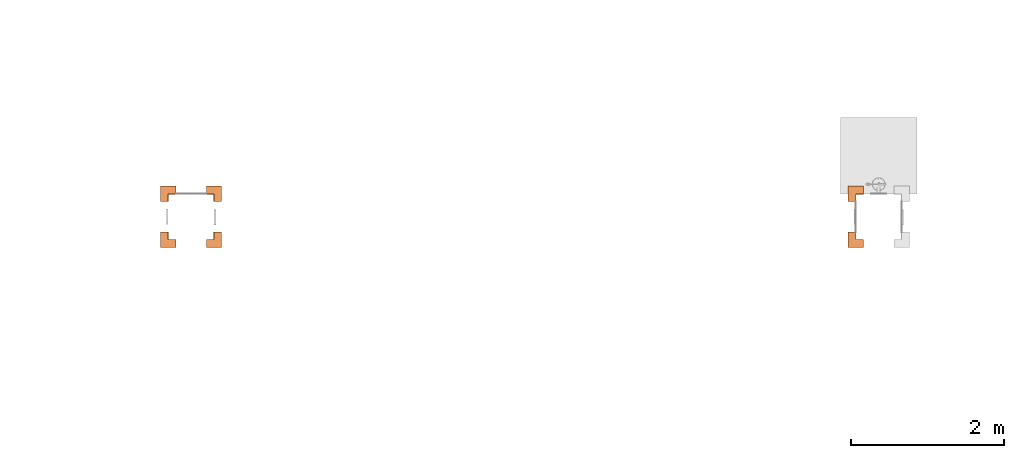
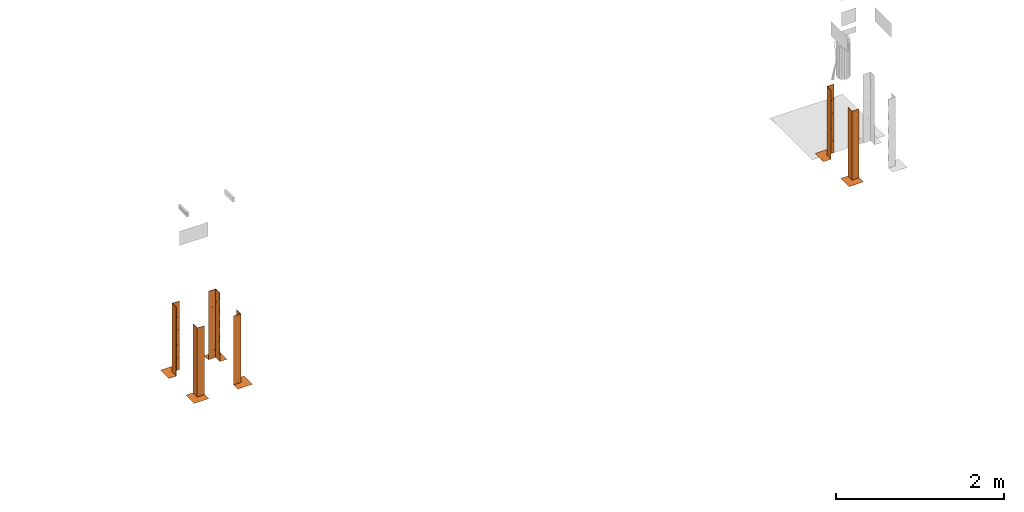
# One storey, part 18 of 119: 6 proxies.
"""IFC2X3 building model written with IfcOpenShell, lengths in metres."""

from ifc_helpers import new_model, entity, si_unit, converted_unit, derived_unit, direction, frame, origin, place, context, subcontext, project, spatial, faceted_brep, source, transform, mapped, material, material_list, type_object, type_shapes, element, save


model = new_model("IFC2X3")

# Units and contexts
model_context = context("Model", 3, precision=1e-05, world=origin(), true_north=direction((6.12303176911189e-17, 1.0)))
body_context = subcontext(model_context, "Body", "Model", "MODEL_VIEW")
ifc_project = project(units=[si_unit("LENGTHUNIT", "METRE"), si_unit("AREAUNIT", "SQUARE_METRE"), si_unit("VOLUMEUNIT", "CUBIC_METRE"), converted_unit("PLANEANGLEUNIT", "DEGREE", entity("IfcRatioMeasure", 0.0174532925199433), si_unit("PLANEANGLEUNIT", "RADIAN"), dimensions=[0, 0, 0, 0, 0, 0, 0]), si_unit("MASSUNIT", "GRAM", prefix="KILO"), derived_unit("MASSDENSITYUNIT", [(si_unit("MASSUNIT", "GRAM", prefix="KILO"), 1), (si_unit("LENGTHUNIT", "METRE"), -3)]), derived_unit("MOMENTOFINERTIAUNIT", [(si_unit("LENGTHUNIT", "METRE"), 4)]), si_unit("TIMEUNIT", "SECOND"), si_unit("FREQUENCYUNIT", "HERTZ"), si_unit("THERMODYNAMICTEMPERATUREUNIT", "DEGREE_CELSIUS"), derived_unit("THERMALTRANSMITTANCEUNIT", [(si_unit("MASSUNIT", "GRAM", prefix="KILO"), 1), (si_unit("THERMODYNAMICTEMPERATUREUNIT", "KELVIN"), -1), (si_unit("TIMEUNIT", "SECOND"), -3)]), derived_unit("VOLUMETRICFLOWRATEUNIT", [(si_unit("LENGTHUNIT", "METRE"), 3), (si_unit("TIMEUNIT", "SECOND"), -1)]), si_unit("ELECTRICCURRENTUNIT", "AMPERE"), si_unit("ELECTRICVOLTAGEUNIT", "VOLT"), si_unit("POWERUNIT", "WATT"), si_unit("FORCEUNIT", "NEWTON", prefix="KILO"), si_unit("ILLUMINANCEUNIT", "LUX"), si_unit("LUMINOUSFLUXUNIT", "LUMEN"), si_unit("LUMINOUSINTENSITYUNIT", "CANDELA"), derived_unit("USERDEFINED", [(si_unit("MASSUNIT", "GRAM", prefix="KILO"), -1), (si_unit("LENGTHUNIT", "METRE"), -2), (si_unit("TIMEUNIT", "SECOND"), 3), (si_unit("LUMINOUSFLUXUNIT", "LUMEN"), 1)]), derived_unit("LINEARVELOCITYUNIT", [(si_unit("LENGTHUNIT", "METRE"), 1), (si_unit("TIMEUNIT", "SECOND"), -1)]), si_unit("PRESSUREUNIT", "PASCAL"), derived_unit("USERDEFINED", [(si_unit("LENGTHUNIT", "METRE"), -2), (si_unit("MASSUNIT", "GRAM", prefix="KILO"), 1), (si_unit("TIMEUNIT", "SECOND"), -2)]), derived_unit("LINEARFORCEUNIT", [(si_unit("MASSUNIT", "GRAM", prefix="KILO"), 1), (si_unit("LENGTHUNIT", "METRE"), 1), (si_unit("TIMEUNIT", "SECOND"), -2), (si_unit("LENGTHUNIT", "METRE"), -1)]), derived_unit("PLANARFORCEUNIT", [(si_unit("MASSUNIT", "GRAM", prefix="KILO"), 1), (si_unit("LENGTHUNIT", "METRE"), 1), (si_unit("TIMEUNIT", "SECOND"), -2), (si_unit("LENGTHUNIT", "METRE"), -2)])], contexts=[model_context])

# Site, building, storey
site_placement = place(None, origin())
site = spatial("IfcSite", under=ifc_project, at=site_placement, Name="Default", CompositionType="ELEMENT")
building_placement = place(site_placement, origin())
building = spatial("IfcBuilding", under=site, at=building_placement, CompositionType="ELEMENT")
storey_placement = place(building_placement, origin())
storey = spatial("IfcBuildingStorey", under=building, at=storey_placement, Name="PAV. 01 - TÉRREO", CompositionType="ELEMENT", Elevation=0.0)

# Proxies
ifc_material_1 = material(Name="Plastico Amarelo")
ifc_material_2 = material(Name="Plastico Preto")
ifc_material_3 = material(Name="O_01_amarelo")
ifc_material_4 = material(Name="O_01_Preto")
ifc_material_list_1 = material_list([ifc_material_1, ifc_material_2, ifc_material_3, ifc_material_4])
ifc_material_list_2 = material_list([ifc_material_3, ifc_material_4, ifc_material_1])
building_element_proxy_type = type_object("IfcBuildingElementProxyType", Name="Indicação de Obstáculos:Indicador - O01 - Amarelo (ambiente interno)", PredefinedType="NOTDEFINED", material=ifc_material_list_2)
shared_shape = source(origin(), body_context, "Body", "Brep", [
    faceted_brep([(0.1, -0.0499999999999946, 0.000999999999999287), (0.0499999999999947, -0.1, 0.000999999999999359), (0.1, -0.1, 0.000999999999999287), (0.1, -0.0499999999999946, 0.0), (0.1, -0.1, 0.0), (0.0499999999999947, -0.1, 0.0)], [[[0, 1, 2]], [[3, 4, 5]], [[0, 2, 4, 3]], [[1, 0, 3, 5]], [[2, 1, 5, 4]]]),
    faceted_brep([(0.100000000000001, 0.0, 0.000999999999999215), (0.0, -0.1, 0.000999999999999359), (0.049999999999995, -0.1, 0.000999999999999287), (0.100000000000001, -0.0499999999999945, 0.000999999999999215), (0.100000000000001, 0.0, 0.0), (0.100000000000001, -0.0499999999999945, 0.0), (0.049999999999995, -0.1, 0.0), (0.0, -0.1, 0.0)], [[[0, 1, 2, 3]], [[4, 5, 6, 7]], [[0, 3, 5, 4]], [[1, 0, 4, 7]], [[3, 2, 6, 5]], [[2, 1, 7, 6]]]),
    faceted_brep([(0.049999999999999, 0.0, 0.000999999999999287), (-0.0500000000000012, -0.0999999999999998, 0.000999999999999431), (0.0, -0.1, 0.000999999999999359), (0.0999999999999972, 0.0, 0.000999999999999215), (0.049999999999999, 0.0, 0.0), (0.0999999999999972, 0.0, 0.0), (0.0, -0.1, 0.0), (-0.0500000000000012, -0.0999999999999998, 0.0)], [[[0, 1, 2, 3]], [[4, 5, 6, 7]], [[1, 0, 4, 7]], [[3, 2, 6, 5]], [[2, 1, 7, 6]], [[0, 3, 5, 4]]]),
    faceted_brep([(-0.0999999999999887, -0.0999999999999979, 0.000999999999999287), (-0.0499999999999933, -0.0999999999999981, 0.000999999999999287), (0.0499999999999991, 0.0, 0.000999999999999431), (0.0, 0.0, 0.000999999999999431), (-0.0999999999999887, -0.0999999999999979, 0.0), (0.0, 0.0, 0.0), (0.049999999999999, 0.0, 0.0), (-0.0499999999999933, -0.0999999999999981, 0.0)], [[[0, 1, 2, 3]], [[4, 5, 6, 7]], [[0, 3, 5, 4]], [[2, 1, 7, 6]], [[3, 2, 6, 5]], [[1, 0, 4, 7]]]),
    faceted_brep([(0.0, 0.0500000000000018, 0.000999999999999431), (-0.0999999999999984, -0.0500000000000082, 0.000999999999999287), (-0.099999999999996, -0.100000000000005, 0.000999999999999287), (0.0, 0.0, 0.000999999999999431), (0.0, 0.0500000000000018, 0.0), (0.0, 0.0, 0.0), (-0.099999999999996, -0.100000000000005, 0.0), (-0.0999999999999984, -0.0500000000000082, 0.0)], [[[0, 1, 2, 3]], [[4, 5, 6, 7]], [[0, 3, 5, 4]], [[1, 0, 4, 7]], [[2, 1, 7, 6]], [[3, 2, 6, 5]]]),
    faceted_brep([(-0.0999999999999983, 0.0499999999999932, 0.000999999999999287), (-0.0499999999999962, 0.1, 0.000999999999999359), (-0.100000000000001, 0.1, 0.000999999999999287), (-0.0999999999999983, 0.0499999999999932, 0.0), (-0.100000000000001, 0.1, 0.0), (-0.0499999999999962, 0.1, 0.0)], [[[0, 1, 2]], [[3, 4, 5]], [[0, 2, 4, 3]], [[1, 0, 3, 5]], [[2, 1, 5, 4]]]),
    faceted_brep([(-0.0999999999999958, 0.0, 0.000999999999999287), (0.0, 0.1, 0.000999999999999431), (-0.0499999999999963, 0.1, 0.000999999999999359), (-0.0999999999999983, 0.0499999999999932, 0.000999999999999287), (-0.0999999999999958, 0.0, 0.0), (-0.0999999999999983, 0.0499999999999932, 0.0), (-0.0499999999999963, 0.1, 0.0), (0.0, 0.1, 0.0)], [[[0, 1, 2, 3]], [[4, 5, 6, 7]], [[0, 3, 5, 4]], [[1, 0, 4, 7]], [[3, 2, 6, 5]], [[2, 1, 7, 6]]]),
    faceted_brep([(0.0, 0.050000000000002, 0.000999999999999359), (0.0, 0.1, 0.000999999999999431), (-0.0999999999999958, 0.0, 0.000999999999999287), (-0.0999999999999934, -0.0500000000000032, 0.000999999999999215), (0.0, 0.0500000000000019, 0.0), (-0.0999999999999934, -0.0500000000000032, 0.0), (-0.0999999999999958, 0.0, 0.0), (0.0, 0.1, 0.0)], [[[0, 1, 2, 3]], [[4, 5, 6, 7]], [[1, 0, 4, 7]], [[2, 1, 7, 6]], [[0, 3, 5, 4]], [[3, 2, 6, 5]]]),
    faceted_brep([(0.00200000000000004, 0.1, 1.0), (0.002, 0.00199999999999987, 0.902000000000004), (0.002, 0.00199999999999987, 0.802000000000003), (0.00200000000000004, 0.1, 0.900000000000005), (0.0, 0.1, 0.900000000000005), (0.0, 0.0, 0.800000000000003), (0.0, 0.0, 0.900000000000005), (0.0, 0.1, 1.0)], [[[0, 1, 2, 3]], [[4, 5, 6, 7]], [[4, 3, 2, 5]], [[1, 6, 5, 2]], [[6, 1, 0, 7]], [[3, 4, 7, 0]]]),
    faceted_brep([(0.00200000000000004, 0.1, 0.800000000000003), (0.002, 0.00199999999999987, 0.702000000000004), (0.002, 0.00199999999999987, 0.602000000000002), (0.00200000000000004, 0.1, 0.700000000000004), (0.0, 0.1, 0.700000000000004), (0.0, 0.0, 0.600000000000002), (0.0, 0.0, 0.700000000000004), (0.0, 0.1, 0.800000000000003)], [[[0, 1, 2, 3]], [[4, 5, 6, 7]], [[4, 3, 2, 5]], [[1, 6, 5, 2]], [[6, 1, 0, 7]], [[3, 4, 7, 0]]]),
    faceted_brep([(0.00200000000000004, 0.1, 0.600000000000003), (0.002, 0.00199999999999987, 0.502000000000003), (0.002, 0.00199999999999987, 0.402000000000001), (0.00200000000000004, 0.1, 0.500000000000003), (0.0, 0.1, 0.500000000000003), (0.0, 0.0, 0.400000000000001), (0.0, 0.0, 0.500000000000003), (0.0, 0.1, 0.600000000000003)], [[[0, 1, 2, 3]], [[4, 5, 6, 7]], [[4, 3, 2, 5]], [[1, 6, 5, 2]], [[6, 1, 0, 7]], [[3, 4, 7, 0]]]),
    faceted_brep([(0.00200000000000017, 0.0999999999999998, 0.400000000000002), (0.00200000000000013, 0.0019999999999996, 0.302000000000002), (0.00200000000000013, 0.0019999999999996, 0.202), (0.00200000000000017, 0.0999999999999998, 0.300000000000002), (0.0, 0.0999999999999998, 0.300000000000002), (0.0, 0.0, 0.2), (0.0, 0.0, 0.300000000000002), (0.0, 0.0999999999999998, 0.400000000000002)], [[[0, 1, 2, 3]], [[4, 5, 6, 7]], [[4, 3, 2, 5]], [[1, 6, 5, 2]], [[6, 1, 0, 7]], [[3, 4, 7, 0]]]),
    faceted_brep([(0.000500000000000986, 0.1, 0.900000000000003), (0.000500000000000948, 0.000499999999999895, 0.800500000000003), (0.000500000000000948, 0.00049999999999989, 0.700500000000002), (0.000500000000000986, 0.1, 0.800000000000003), (0.0, 0.1, 0.800000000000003), (0.0, 0.0, 0.700000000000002), (0.0, 0.0, 0.800000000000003), (0.0, 0.1, 0.900000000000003)], [[[0, 1, 2, 3]], [[4, 5, 6, 7]], [[4, 3, 2, 5]], [[1, 6, 5, 2]], [[6, 1, 0, 7]], [[3, 4, 7, 0]]]),
    faceted_brep([(0.000500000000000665, 0.1, 0.700000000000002), (0.000500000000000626, 0.000499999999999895, 0.600500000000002), (0.000500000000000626, 0.00049999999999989, 0.500500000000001), (0.000500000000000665, 0.1, 0.600000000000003), (0.0, 0.1, 0.600000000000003), (0.0, 0.0, 0.500000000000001), (0.0, 0.0, 0.600000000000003), (0.0, 0.1, 0.700000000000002)], [[[0, 1, 2, 3]], [[4, 5, 6, 7]], [[4, 3, 2, 5]], [[1, 6, 5, 2]], [[6, 1, 0, 7]], [[3, 4, 7, 0]]]),
    faceted_brep([(0.000500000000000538, 0.0999999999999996, 0.500000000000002), (0.000500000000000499, 0.000499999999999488, 0.400500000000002), (0.000500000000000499, 0.000499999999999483, 0.3005), (0.000500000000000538, 0.0999999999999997, 0.400000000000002), (0.0, 0.0999999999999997, 0.400000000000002), (0.0, 0.0, 0.3), (0.0, 0.0, 0.400000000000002), (0.0, 0.0999999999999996, 0.500000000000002)], [[[0, 1, 2, 3]], [[4, 5, 6, 7]], [[4, 3, 2, 5]], [[1, 6, 5, 2]], [[6, 1, 0, 7]], [[3, 4, 7, 0]]]),
    faceted_brep([(0.00499999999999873, 0.00499999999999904, 1.0), (0.00499999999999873, 0.00499999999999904, 0.904999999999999), (0.00499999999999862, 0.0999999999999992, 1.0), (0.0, 0.0, 0.899999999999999), (0.0, 0.0, 1.0), (0.0, 0.0999999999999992, 1.0)], [[[0, 1, 2]], [[3, 4, 5]], [[4, 0, 2, 5]], [[5, 2, 1, 3]], [[0, 4, 3, 1]]]),
    faceted_brep([(0.00499999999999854, 0.00499999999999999, 1.0), (0.0999999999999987, 0.00499999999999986, 1.0), (0.00499999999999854, 0.00499999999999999, 0.904999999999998), (0.0, 0.0, 0.899999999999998), (0.0999999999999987, 0.0, 1.0), (0.0, 0.0, 1.0)], [[[0, 1, 2]], [[3, 4, 5]], [[5, 4, 1, 0]], [[4, 3, 2, 1]], [[0, 2, 3, 5]]]),
    faceted_brep([(0.0999999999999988, 0.000499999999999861, 0.900000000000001), (0.0999999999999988, 0.000499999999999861, 0.800000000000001), (0.000499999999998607, 0.000499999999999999, 0.7005), (0.000499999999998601, 0.000499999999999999, 0.800500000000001), (0.0999999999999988, 0.0, 0.800000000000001), (0.0999999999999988, 0.0, 0.900000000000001), (0.0, 0.0, 0.800000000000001), (0.0, 0.0, 0.7)], [[[0, 1, 2, 3]], [[4, 5, 6, 7]], [[4, 7, 2, 1]], [[3, 2, 7, 6]], [[6, 5, 0, 3]], [[1, 0, 5, 4]]]),
    faceted_brep([(0.0999999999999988, 0.000499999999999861, 0.700000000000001), (0.0999999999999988, 0.000499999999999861, 0.600000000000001), (0.000499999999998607, 0.000499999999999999, 0.5005), (0.000499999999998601, 0.000499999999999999, 0.600500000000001), (0.0999999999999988, 0.0, 0.600000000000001), (0.0999999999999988, 0.0, 0.700000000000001), (0.0, 0.0, 0.600000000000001), (0.0, 0.0, 0.5)], [[[0, 1, 2, 3]], [[4, 5, 6, 7]], [[4, 7, 2, 1]], [[3, 2, 7, 6]], [[6, 5, 0, 3]], [[1, 0, 5, 4]]]),
    faceted_brep([(0.0999999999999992, 0.000499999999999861, 0.500000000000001), (0.0999999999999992, 0.000499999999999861, 0.400000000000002), (0.000499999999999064, 0.000499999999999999, 0.3005), (0.000499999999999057, 0.000499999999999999, 0.400500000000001), (0.0999999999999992, 0.0, 0.400000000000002), (0.0999999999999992, 0.0, 0.500000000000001), (0.0, 0.0, 0.400000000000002), (0.0, 0.0, 0.3)], [[[0, 1, 2, 3]], [[4, 5, 6, 7]], [[4, 7, 2, 1]], [[3, 2, 7, 6]], [[6, 5, 0, 3]], [[1, 0, 5, 4]]]),
    faceted_brep([(0.0999999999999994, 0.00199999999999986, 1.0), (0.0999999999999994, 0.00199999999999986, 0.900000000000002), (0.00199999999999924, 0.002, 0.802), (0.00199999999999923, 0.002, 0.902000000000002), (0.0999999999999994, 0.0, 0.900000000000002), (0.0999999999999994, 0.0, 1.0), (0.0, 0.0, 0.900000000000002), (0.0, 0.0, 0.8)], [[[0, 1, 2, 3]], [[4, 5, 6, 7]], [[4, 7, 2, 1]], [[3, 2, 7, 6]], [[6, 5, 0, 3]], [[1, 0, 5, 4]]]),
    faceted_brep([(0.0999999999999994, 0.00199999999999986, 0.800000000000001), (0.0999999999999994, 0.00199999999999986, 0.700000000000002), (0.00199999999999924, 0.002, 0.602), (0.00199999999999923, 0.002, 0.702000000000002), (0.0999999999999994, 0.0, 0.700000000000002), (0.0999999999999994, 0.0, 0.800000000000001), (0.0, 0.0, 0.700000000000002), (0.0, 0.0, 0.6)], [[[0, 1, 2, 3]], [[4, 5, 6, 7]], [[4, 7, 2, 1]], [[3, 2, 7, 6]], [[6, 5, 0, 3]], [[1, 0, 5, 4]]]),
    faceted_brep([(0.0999999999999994, 0.00199999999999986, 0.600000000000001), (0.0999999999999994, 0.00199999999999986, 0.500000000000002), (0.00199999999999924, 0.002, 0.402), (0.00199999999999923, 0.002, 0.502000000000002), (0.0999999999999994, 0.0, 0.500000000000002), (0.0999999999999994, 0.0, 0.600000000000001), (0.0, 0.0, 0.500000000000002), (0.0, 0.0, 0.4)], [[[0, 1, 2, 3]], [[4, 5, 6, 7]], [[4, 7, 2, 1]], [[3, 2, 7, 6]], [[6, 5, 0, 3]], [[1, 0, 5, 4]]]),
    faceted_brep([(0.0999999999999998, 0.00199999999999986, 0.400000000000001), (0.0999999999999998, 0.00199999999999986, 0.300000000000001), (0.00199999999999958, 0.002, 0.202), (0.00199999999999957, 0.002, 0.302000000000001), (0.0999999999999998, 0.0, 0.300000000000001), (0.0999999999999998, 0.0, 0.400000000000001), (0.0, 0.0, 0.300000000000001), (0.0, 0.0, 0.2)], [[[0, 1, 2, 3]], [[4, 5, 6, 7]], [[4, 7, 2, 1]], [[3, 2, 7, 6]], [[6, 5, 0, 3]], [[1, 0, 5, 4]]]),
    faceted_brep([(0.000500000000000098, 0.1, 0.300000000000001), (0.000500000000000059, 0.000499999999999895, 0.200500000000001), (0.000500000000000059, 0.00049999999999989, 0.1005), (0.000500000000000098, 0.1, 0.200000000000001), (0.0, 0.1, 0.200000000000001), (0.0, 0.0, 0.0999999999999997), (0.0, 0.0, 0.200000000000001), (0.0, 0.1, 0.300000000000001)], [[[0, 1, 2, 3]], [[4, 5, 6, 7]], [[4, 3, 2, 5]], [[1, 6, 5, 2]], [[6, 1, 0, 7]], [[3, 4, 7, 0]]]),
    faceted_brep([(0.00200000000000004, 0.1, 0.200000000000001), (0.002, 0.00199999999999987, 0.102000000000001), (0.002, 0.00199999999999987, 0.00199999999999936), (0.00200000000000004, 0.1, 0.100000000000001), (0.0, 0.1, 0.100000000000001), (0.0, 0.0, 0.0), (0.0, 0.0, 0.100000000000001), (0.0, 0.1, 0.200000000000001)], [[[0, 1, 2, 3]], [[4, 5, 6, 7]], [[4, 3, 2, 5]], [[1, 6, 5, 2]], [[6, 1, 0, 7]], [[3, 4, 7, 0]]]),
    faceted_brep([(0.000500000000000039, 0.1, 0.100000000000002), (0.0005, 0.000499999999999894, 0.000499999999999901), (0.0005, 0.000499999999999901, 0.0), (0.000500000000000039, 0.1, 0.0), (0.0, 0.0, 0.0), (0.0, 0.1, 0.100000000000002), (0.0, 0.1, 0.0)], [[[0, 1, 2, 3]], [[4, 5, 6]], [[3, 6, 5, 0]], [[6, 3, 2, 4]], [[4, 1, 0, 5]], [[1, 4, 2]]]),
    faceted_brep([(0.0999999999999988, 0.000499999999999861, 0.300000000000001), (0.0999999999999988, 0.000499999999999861, 0.200000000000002), (0.000499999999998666, 0.000499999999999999, 0.1005), (0.00049999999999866, 0.000499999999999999, 0.200500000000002), (0.0999999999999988, 0.0, 0.200000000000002), (0.0999999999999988, 0.0, 0.300000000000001), (0.0, 0.0, 0.200000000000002), (0.0, 0.0, 0.1)], [[[0, 1, 2, 3]], [[4, 5, 6, 7]], [[4, 7, 2, 1]], [[3, 2, 7, 6]], [[6, 5, 0, 3]], [[1, 0, 5, 4]]]),
    faceted_brep([(0.0999999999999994, 0.00199999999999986, 0.200000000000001), (0.0999999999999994, 0.00199999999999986, 0.100000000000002), (0.00199999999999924, 0.002, 0.0019999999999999), (0.00199999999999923, 0.002, 0.102000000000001), (0.0999999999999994, 0.0, 0.100000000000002), (0.0999999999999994, 0.0, 0.200000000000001), (0.0, 0.0, 0.100000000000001), (0.0, 0.0, 0.0)], [[[0, 1, 2, 3]], [[4, 5, 6, 7]], [[4, 7, 2, 1]], [[3, 2, 7, 6]], [[6, 5, 0, 3]], [[1, 0, 5, 4]]]),
    faceted_brep([(0.1, 0.000499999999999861, 0.100000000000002), (0.1, 0.000499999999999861, 0.0), (0.000499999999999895, 0.000499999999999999, 0.0), (0.000499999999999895, 0.000499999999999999, 0.000499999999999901), (0.0, 0.0, 0.0), (0.1, 0.0, 0.0), (0.1, 0.0, 0.100000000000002)], [[[0, 1, 2, 3]], [[4, 5, 6]], [[1, 0, 6, 5]], [[5, 4, 2, 1]], [[4, 6, 0, 3]], [[3, 2, 4]]]),
])
type_shapes(building_element_proxy_type, [shared_shape])
proxy_1_placement = place(storey_placement, frame((57.4738110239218, 13.6286676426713, 0.0), z_axis=(0.0, 0.0, 1.0), x_axis=(0.0, 1.0, 0.0)))
element("IfcBuildingElementProxy", 1, at=proxy_1_placement, inside=storey, type_object=building_element_proxy_type, material=ifc_material_list_1, Name="Indicação de Obstáculos:Indicador - O01 - Amarelo (ambiente interno)", ObjectType="Indicação de Obstáculos:Indicador - O01 - Amarelo (ambiente interno)", context=body_context, shape_type="MappedRepresentation", body=[
    mapped(shared_shape, transform((0.0, 0.0, 0.0), scale=1.0)),
])
ifc_material_list_3 = material_list([ifc_material_1, ifc_material_2, ifc_material_3, ifc_material_4])
proxy_2_placement = place(storey_placement, frame((56.873811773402, 13.6286676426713, 0.0)))
element("IfcBuildingElementProxy", 2, at=proxy_2_placement, inside=storey, type_object=building_element_proxy_type, material=ifc_material_list_3, Name="Indicação de Obstáculos:Indicador - O01 - Amarelo (ambiente interno)", ObjectType="Indicação de Obstáculos:Indicador - O01 - Amarelo (ambiente interno)", context=body_context, shape_type="MappedRepresentation", body=[
    mapped(shared_shape, transform((0.0, 0.0, 0.0), scale=1.0)),
])
ifc_material_list_4 = material_list([ifc_material_1, ifc_material_2, ifc_material_3, ifc_material_4])
proxy_3_placement = place(storey_placement, frame((57.4738110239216, 14.2286668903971, 0.0), z_axis=(0.0, 0.0, 1.0), x_axis=(-1.0, 0.0, 0.0)))
element("IfcBuildingElementProxy", 3, at=proxy_3_placement, inside=storey, type_object=building_element_proxy_type, material=ifc_material_list_4, Name="Indicação de Obstáculos:Indicador - O01 - Amarelo (ambiente interno)", ObjectType="Indicação de Obstáculos:Indicador - O01 - Amarelo (ambiente interno)", context=body_context, shape_type="MappedRepresentation", body=[
    mapped(shared_shape, transform((0.0, 0.0, 0.0), scale=1.0)),
])
ifc_material_list_5 = material_list([ifc_material_1, ifc_material_2, ifc_material_3, ifc_material_4])
proxy_4_placement = place(storey_placement, frame((56.8738117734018, 14.2286668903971, 0.0), z_axis=(0.0, 0.0, 1.0), x_axis=(0.0, -1.0, 0.0)))
element("IfcBuildingElementProxy", 4, at=proxy_4_placement, inside=storey, type_object=building_element_proxy_type, material=ifc_material_list_5, Name="Indicação de Obstáculos:Indicador - O01 - Amarelo (ambiente interno)", ObjectType="Indicação de Obstáculos:Indicador - O01 - Amarelo (ambiente interno)", context=body_context, shape_type="MappedRepresentation", body=[
    mapped(shared_shape, transform((0.0, 0.0, 0.0), scale=1.0)),
])
ifc_material_list_6 = material_list([ifc_material_1, ifc_material_2, ifc_material_3, ifc_material_4])
proxy_5_placement = place(storey_placement, frame((65.8738005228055, 13.6286676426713, 0.0)))
element("IfcBuildingElementProxy", 5, at=proxy_5_placement, inside=storey, type_object=building_element_proxy_type, material=ifc_material_list_6, Name="Indicação de Obstáculos:Indicador - O01 - Amarelo (ambiente interno)", ObjectType="Indicação de Obstáculos:Indicador - O01 - Amarelo (ambiente interno)", context=body_context, shape_type="MappedRepresentation", body=[
    mapped(shared_shape, transform((0.0, 0.0, 0.0), scale=1.0)),
])
ifc_material_list_7 = material_list([ifc_material_1, ifc_material_2, ifc_material_3, ifc_material_4])
proxy_6_placement = place(storey_placement, frame((65.8738005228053, 14.228666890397, 0.0), z_axis=(0.0, 0.0, 1.0), x_axis=(0.0, -1.0, 0.0)))
element("IfcBuildingElementProxy", 6, at=proxy_6_placement, inside=storey, type_object=building_element_proxy_type, material=ifc_material_list_7, Name="Indicação de Obstáculos:Indicador - O01 - Amarelo (ambiente interno)", ObjectType="Indicação de Obstáculos:Indicador - O01 - Amarelo (ambiente interno)", context=body_context, shape_type="MappedRepresentation", body=[
    mapped(shared_shape, transform((0.0, 0.0, 0.0), scale=1.0)),
])

save(model, "model.ifc")
